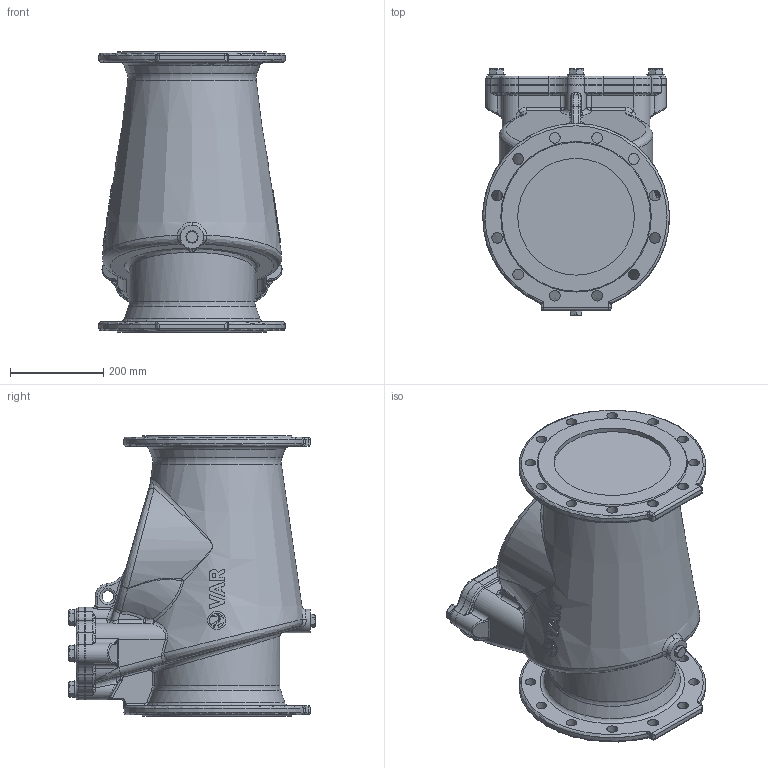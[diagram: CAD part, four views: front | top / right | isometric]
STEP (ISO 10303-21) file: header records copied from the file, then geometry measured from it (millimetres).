
FILE_DESCRIPTION(('STEP AP242'), '1');
FILE_NAME('VAR RETO-STOP 吾疣蝽 觌囡囗 DN 250 PN 10', '2026-06-28T08:25:26', (' '), (' '), 'C3D Converter', 'C3D Toolkit', '');
FILE_SCHEMA(('AP242_MANAGED_MODEL_BASED_3D_ENGINEERING_MIM_LF { 1 0 10303 442 1 1 4 }'));
Length unit declared in the file: millimetre
Products named in the file (1): Admi1EE092BCh8ix
Bounding box: 399.93 x 527.5 x 600 mm (x, y, z)
Volume: 58150866.1 mm3; surface area: 1259071.9 mm2
Topology: 1 solids, 6 shells, 816 faces, 2008 edges, 1206 vertices
Faces by surface type: plane 217, bspline 167, cylinder 161, extrusion 134, torus 66, cone 65, sphere 6
Full cylindrical faces by diameter (mm): 15.053 x1, 16 x1, 19.053 x4, 20 x1, 21 x4, 22 x1, 23 x24, 25 x1, 26 x1, 27 x4, 37 x4, 39.025 x1, 50 x1, 250 x2
Entity records: 63733 total; most frequent: CARTESIAN_POINT 40645, ORIENTED_EDGE 3810, DIRECTION 2717, EDGE_CURVE 1905, VERTEX_POINT 1203, AXIS2_PLACEMENT_3D 1029, B_SPLINE_CURVE_WITH_KNOTS 994, EDGE_LOOP 978
